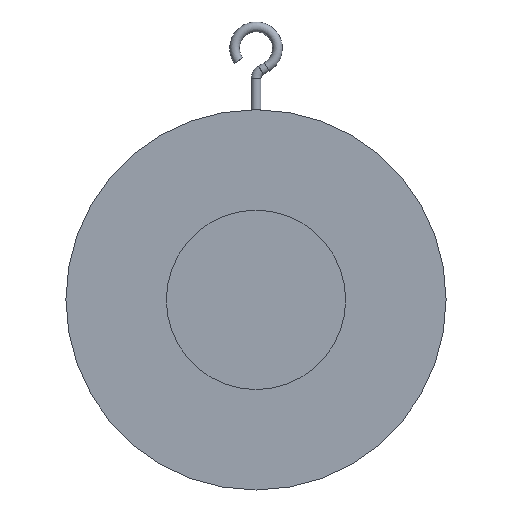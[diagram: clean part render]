
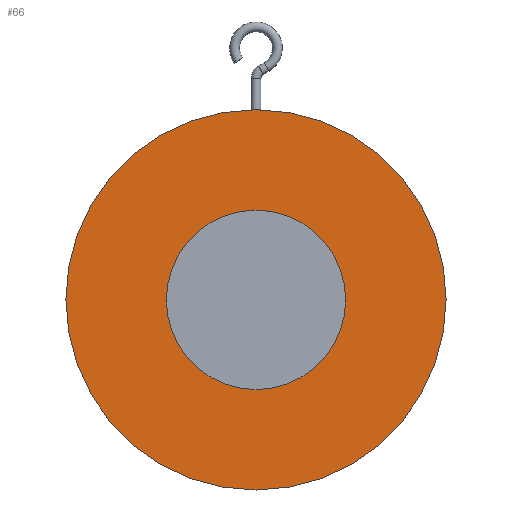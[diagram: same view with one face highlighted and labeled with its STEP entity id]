
A CAD part, front view. The second image highlights one B-rep face of the part: STEP entity #66.
In plain terms, the highlighted planar face has unit normal (0, -1, 0).
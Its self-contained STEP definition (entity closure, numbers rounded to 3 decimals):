
#66=ADVANCED_FACE('',(#203,#205),#207,.T.);
#203=FACE_BOUND('',#204,.T.);
#204=EDGE_LOOP('',(#315));
#205=FACE_BOUND('',#206,.T.);
#206=EDGE_LOOP('',(#316));
#207=PLANE('',#208);
#208=AXIS2_PLACEMENT_3D('',#209,#210,#211);
#209=CARTESIAN_POINT('',(0.,-9.,0.));
#210=DIRECTION('',(0.,-1.,0.));
#211=DIRECTION('',(0.,0.,1.));
#315=ORIENTED_EDGE('',*,*,#356,.F.);
#316=ORIENTED_EDGE('',*,*,#358,.T.);
#356=EDGE_CURVE('',#383,#383,#384,.T.);
#358=EDGE_CURVE('',#387,#387,#388,.T.);
#383=VERTEX_POINT('',#606);
#384=CIRCLE('',#607,97.5);
#387=VERTEX_POINT('',#616);
#388=CIRCLE('',#617,46.);
#606=CARTESIAN_POINT('',(0.,-9.,97.5));
#607=AXIS2_PLACEMENT_3D('',#608,#609,#610);
#608=CARTESIAN_POINT('',(0.,-9.,0.));
#609=DIRECTION('',(0.,1.,0.));
#610=DIRECTION('',(0.,0.,1.));
#616=CARTESIAN_POINT('',(0.,-9.,46.));
#617=AXIS2_PLACEMENT_3D('',#618,#619,#620);
#618=CARTESIAN_POINT('',(0.,-9.,0.));
#619=DIRECTION('',(0.,1.,0.));
#620=DIRECTION('',(0.,0.,1.));
